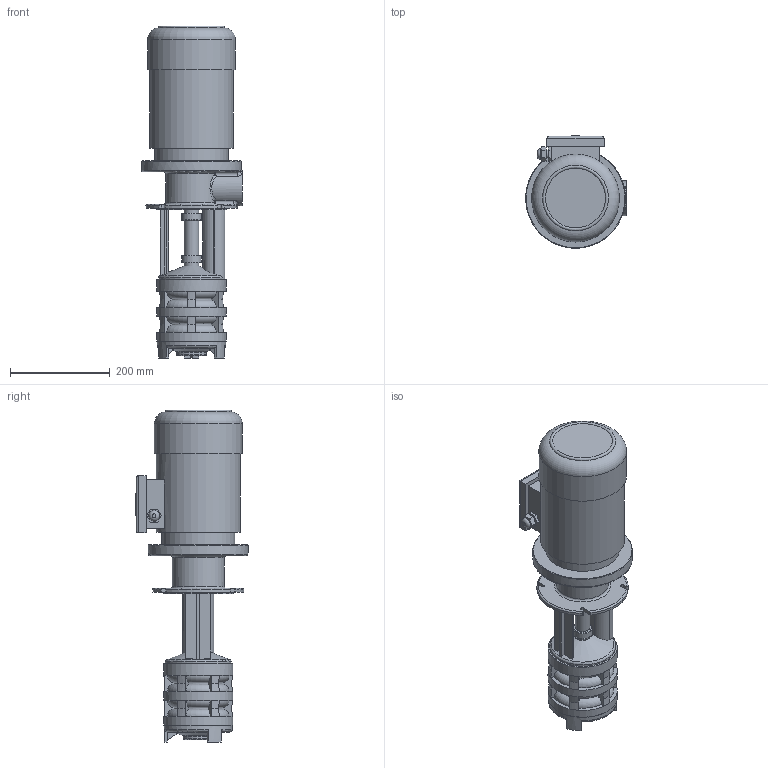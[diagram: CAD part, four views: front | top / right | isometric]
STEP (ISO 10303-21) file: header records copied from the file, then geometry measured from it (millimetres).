
FILE_DESCRIPTION(/* description */ ('Unknown'),/* implementation_level */ '2;1');
FILE_NAME(/* name */ 'gp3-300',/* time_stamp */ '2025-06-04T09:22:06+03:00',/* author */ ('Unknown'),/* organization */ ('Unknown'),/* preprocessor_version */ 'ST-DEVELOPER v16.7',/* originating_system */ 'DEX',/* authorisation */ $);
FILE_SCHEMA (('AUTOMOTIVE_DESIGN {1 0 10303 214 3 1 1}'));
Length unit declared in the file: millimetre
Products named in the file (1): gp3-300
Bounding box: 202 x 225 x 665.33 mm (x, y, z)
Volume: 10701117.4 mm3; surface area: 490742.7 mm2
Topology: 1 solids, 1 shells, 385 faces, 994 edges, 642 vertices
Faces by surface type: plane 134, bspline 84, cylinder 79, cone 47, torus 41
Full cylindrical faces by diameter (mm): 17 x1, 21.5 x1, 29 x3, 33 x2, 35 x2, 39 x2, 40.5 x2, 45 x1, 47 x1, 60 x1, 137 x1, 139 x3, 140 x1, 168.001 x1, 176 x1, 200 x1
Entity records: 14339 total; most frequent: CARTESIAN_POINT 5577, ORIENTED_EDGE 1864, DIRECTION 1645, EDGE_CURVE 932, VERTEX_POINT 632, AXIS2_PLACEMENT_3D 618, EDGE_LOOP 472, FACE_BOUND 472
